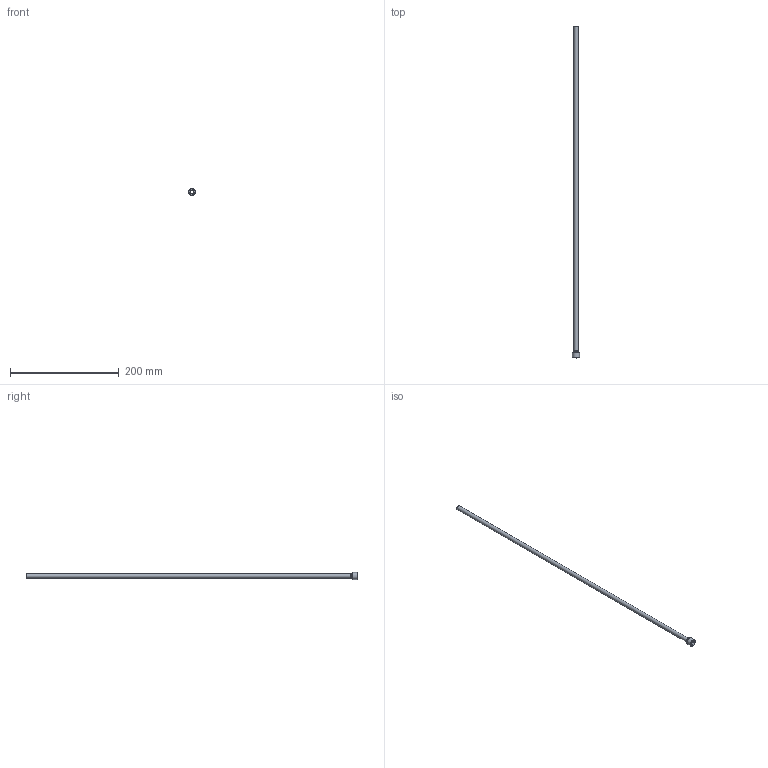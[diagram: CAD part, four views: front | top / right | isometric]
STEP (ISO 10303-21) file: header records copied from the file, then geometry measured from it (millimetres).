
FILE_DESCRIPTION(/* description */ (''),/* implementation_level */ '2;1');
FILE_NAME(/* name */ 'C:/Users/drich/Desktop/PT14-312-24 v1.step',/* time_stamp */ '2019-12-27T15:10:43-06:00',/* author */ (''),/* organization */ (''),/* preprocessor_version */ 'ST-DEVELOPER v18',/* originating_system */ 'Autodesk Translation Framework v8.12.0.6',/* authorisation */ '');
FILE_SCHEMA (('AUTOMOTIVE_DESIGN { 1 0 10303 214 3 1 1 }'));
Length unit declared in the file: inch
Products named in the file (1): PT14-312-24
Bounding box: 13.03 x 609.6 x 13.03 mm (x, y, z)
Volume: 5260 mm3; surface area: 29538.8 mm2
Topology: 1 solids, 1 shells, 19 faces, 48 edges, 34 vertices
Faces by surface type: plane 11, cylinder 4, torus 2, cone 2
Full cylindrical faces by diameter (mm): 7.315 x1, 7.925 x1, 9.906 x1, 13.032 x1
Entity records: 633 total; most frequent: DIRECTION 112, CARTESIAN_POINT 102, ORIENTED_EDGE 96, EDGE_CURVE 48, AXIS2_PLACEMENT_3D 44, VERTEX_POINT 34, CIRCLE 24, EDGE_LOOP 24
